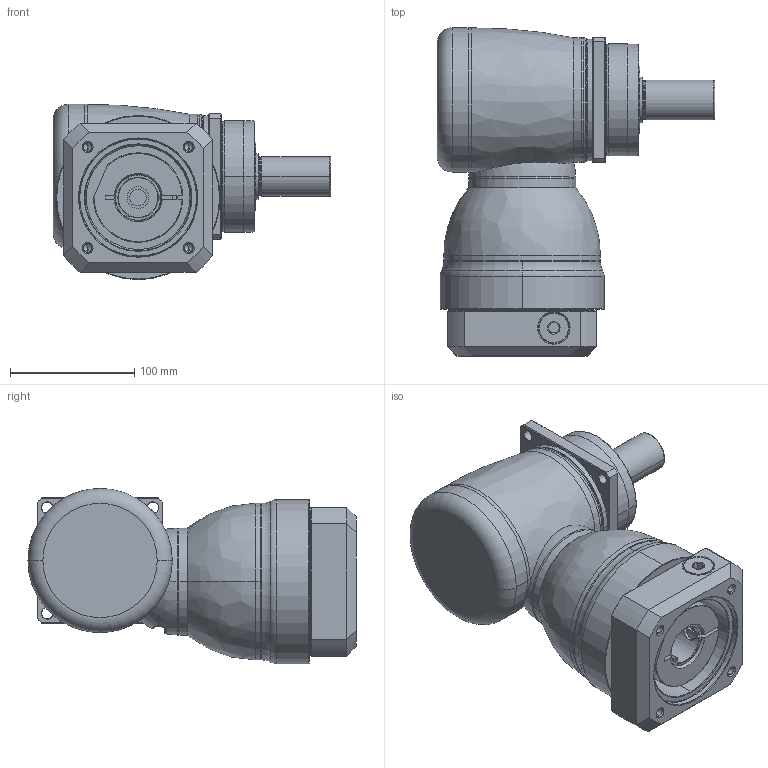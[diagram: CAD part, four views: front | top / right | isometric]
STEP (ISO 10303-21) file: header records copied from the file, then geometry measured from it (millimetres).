
FILE_DESCRIPTION((''),'2;1');
FILE_NAME('KF100_1ST_32-P0409700101_ASM','2016-06-22T',('d01943'),(''),'PRO/ENGINEER BY PARAMETRIC TECHNOLOGY CORPORATION, 2008410','PRO/ENGINEER BY PARAMETRIC TECHNOLOGY CORPORATION, 2008410','');
FILE_SCHEMA(('CONFIG_CONTROL_DESIGN'));
Length unit declared in the file: millimetre
Products named in the file (11): P1008400002; P1804400001; P0915400001; P1315400001; P1007400001; P1318400301; P0409700101; P0503700010; P0912403001; 21711418017; KF100_1ST_32-P0409700101_ASM
Assembly tree (10 placements, depth 2):
  KF100_1ST_32-P0409700101_ASM
    P1008400002
    P1804400001
    P0915400001
    P1315400001
    P1007400001
    P1318400301
    P0409700101
    P0503700010
    P0912403001
    21711418017
Bounding box: 223.3 x 264 x 141 mm (x, y, z)
Volume: 2418363.9 mm3; surface area: 346580.5 mm2
Topology: 11 solids, 11 shells, 465 faces, 1030 edges, 609 vertices
Faces by surface type: cylinder 150, cone 118, plane 99, torus 60, bspline 36, sphere 2
Entity records: 18678 total; most frequent: CARTESIAN_POINT 8239, DIRECTION 2284, ORIENTED_EDGE 2024, EDGE_CURVE 1012, AXIS2_PLACEMENT_3D 970, VERTEX_POINT 609, EDGE_LOOP 531, CIRCLE 520
